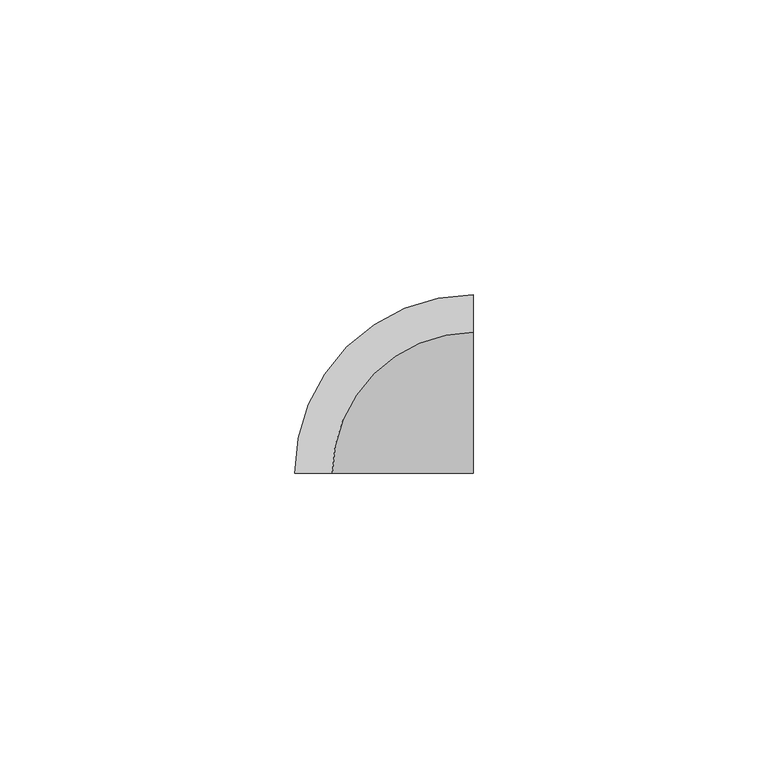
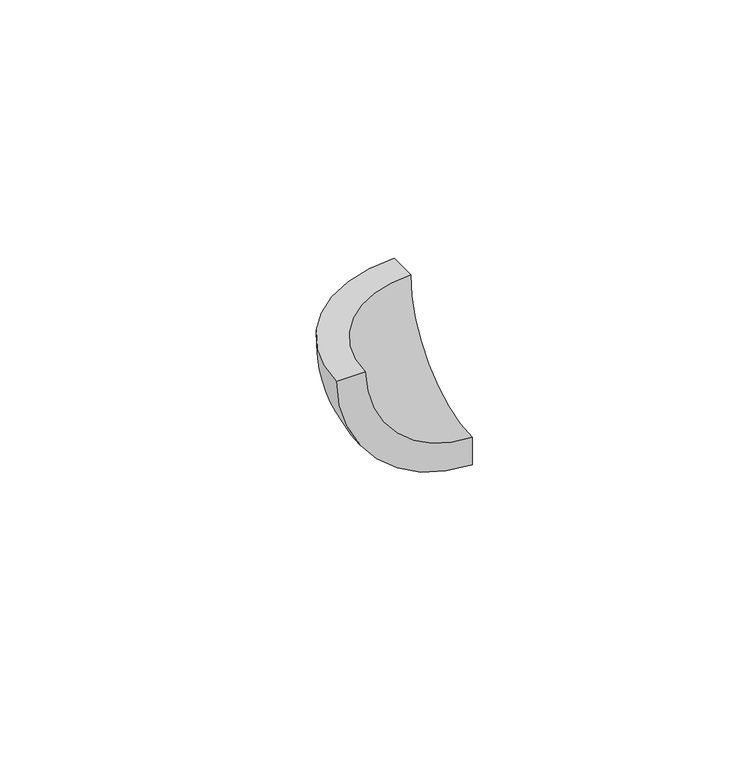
"""IFC4 building model written with IfcOpenShell, lengths in millimetres: proxy geometry, EXAGRES - Piscina Uña : Nubia_4x4cm."""

from ifc_helpers import new_model, si_unit, point, frame, origin, place, context, project, spatial, circle_curve, ellipse_curve, trimmed, source, transform, mapped, element, save
from ifc_brep_helpers import plane_surface, revolved_surface, advanced_brep


def generic_models_b0f7cce5(model_context):
    return source(origin(), model_context, "Body", "AdvancedBrep", [
        advanced_brep(
        [(0.0, -23.9, 23.9), (23.9, 0.0, 23.9), (23.9, 6.4, 23.9), (-6.4, -23.9, 23.9), (23.9, -23.9, -6.4), (23.9, -23.9, 0.0)],
        [
            (0, 1, circle_curve(frame((23.9, -23.9, 23.9), z_axis=(0.0, 0.0, -1.0), x_axis=(0.0, -1.0, 0.0)), 23.9)),
            (1, 2),
            (2, 3, circle_curve(frame((23.9, -23.9, 23.9), z_axis=(0.0, 0.0, 1.0), x_axis=(0.0, -1.0, 0.0)), 30.3)),
            (3, 0),
            (3, 4, circle_curve(frame((23.9, -23.9, 23.9), z_axis=(0.0, -1.0, 0.0), x_axis=(0.0, 0.0, 1.0)), 30.3)),
            (4, 5),
            (5, 0, circle_curve(frame((23.9, -23.9, 23.9), z_axis=(0.0, 1.0, 0.0), x_axis=(0.0, 0.0, 1.0)), 23.9)),
            (5, 1, circle_curve(frame((23.9, -23.9, 23.9), z_axis=(1.0, 0.0, 0.0), x_axis=(0.0, 1.0, 0.0)), 23.9)),
            (4, 2, circle_curve(frame((23.9, -23.9, 23.9), z_axis=(1.0, 0.0, 0.0), x_axis=(0.0, 1.0, 0.0)), 30.3)),
        ],
        [
            plane_surface(frame((-0.3, -23.9, 23.9), z_axis=(0.0, 0.0, 1.0), x_axis=(0.0, 1.0, 0.0))),
            plane_surface(frame((-0.3, -23.9, 23.9), z_axis=(0.0, -1.0, 0.0), x_axis=(0.0, 0.0, -1.0))),
            revolved_surface(trimmed(ellipse_curve(frame((23.9, -23.9, 23.9), z_axis=(0.0, 0.0, -1.0), x_axis=(0.0, -1.0, 0.0)), 23.9, 23.9), [point((0.0, -23.9, 23.9))], [point((23.9, 0.0, 23.9))], True, "CARTESIAN"), (-0.3, -23.9, 23.9), (-1.0, 0.0, 0.0)),
            plane_surface(frame((23.9, -23.9, 23.9), z_axis=(1.0, 0.0, 0.0), x_axis=(0.0, 1.0, 0.0))),
            revolved_surface(trimmed(ellipse_curve(frame((23.9, -23.9, 23.9), z_axis=(0.0, 0.0, 1.0), x_axis=(0.0, -1.0, 0.0)), 30.3, 30.3), [point((23.9, 6.4, 23.9))], [point((-6.4, -23.9, 23.9))], True, "CARTESIAN"), (-0.3, -23.9, 23.9), (-1.0, 0.0, 0.0)),
        ],
        [
            (0, [[1, 2, 3, 4]]),
            (1, [[5, 6, 7, -4]]),
            (2, [[8, -1, -7]]),
            (3, [[9, -2, -8, -6]]),
            (4, [[-3, -9, -5]]),
        ],
    ),
    ])


if __name__ == "__main__":
    model = new_model("IFC4")
    model_context = context("Model", 3, world=origin())
    ifc_project = project(units=[si_unit("LENGTHUNIT", "METRE", prefix="MILLI")], contexts=[model_context])
    site = spatial("IfcSite", under=ifc_project)
    building = spatial("IfcBuilding", under=site)
    placement = place(None, origin())
    generic_models_shape = generic_models_b0f7cce5(model_context)
    element("IfcBuildingElementProxy", 1, Name="EXAGRES - Piscina Uña : Nubia_4x4cm", ObjectType="EXAGRES - Piscina Uña : Nubia_4x4cm", at=placement, inside=building, context=model_context, shape_type="MappedRepresentation", body=[
        mapped(generic_models_shape, transform((0.0, 0.0, 0.0), x_axis=(1.0, 0.0, 0.0), y_axis=(0.0, 1.0, 0.0), z_axis=(0.0, 0.0, 1.0))),
    ])
    save(model, "model.ifc")
